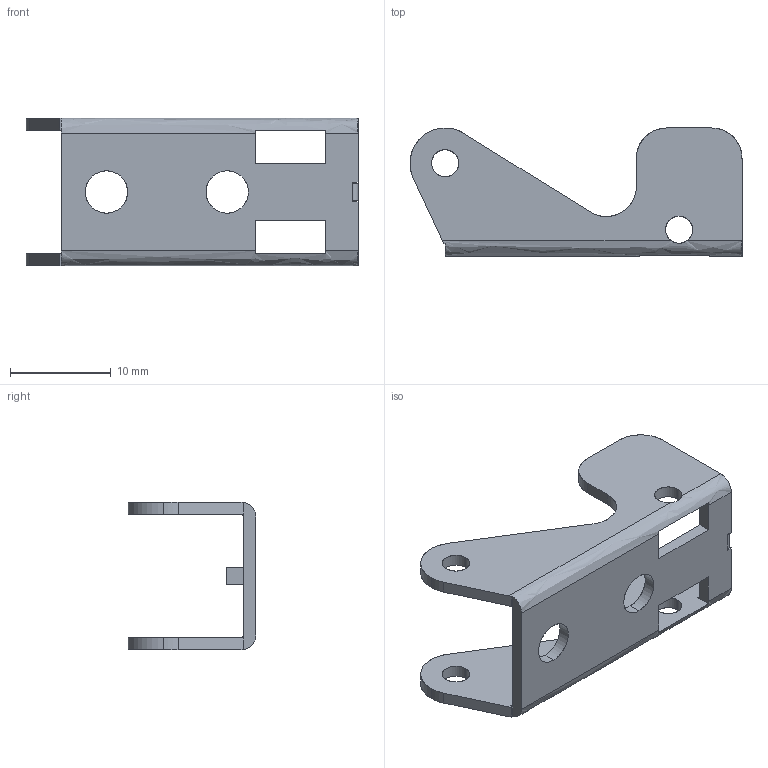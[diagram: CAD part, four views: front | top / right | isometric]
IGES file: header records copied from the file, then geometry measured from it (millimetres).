
Start section: SolidWorks IGES FILE using analytic representation for surfaces
Global section: file name: C:\Documents and Settings\lecoutey\Bureau\GP 2075\2075.020.010.IGS; native system: SolidWorks 2004 by SolidWorks Corporation; preprocessor: Version 5.3; author: lecoutey; date: 050329.161339; units: millimetre
Bounding box: 33 x 12.7 x 14.7 mm (x, y, z)
Surface area: 2013 mm2 (no closed solid volume)
Topology: 0 solids, 0 shells, 63 faces, 934 edges, 934 vertices
Faces by surface type: bspline 34, revolution 29
